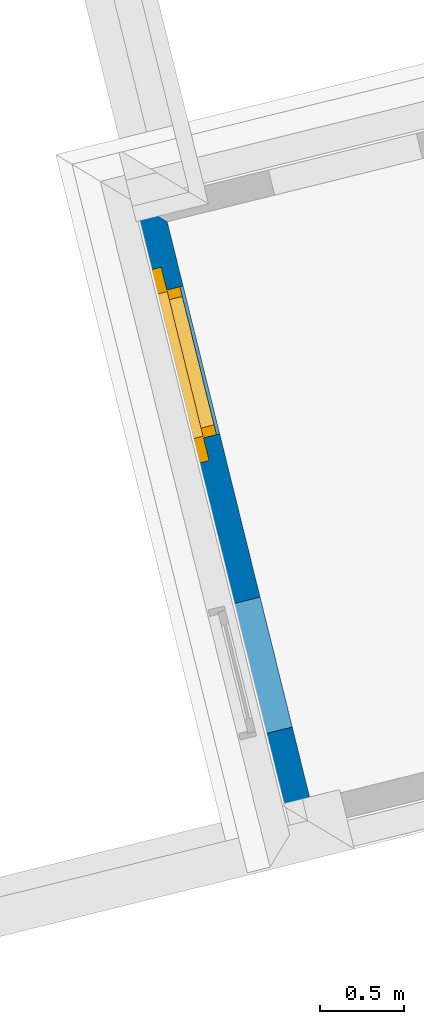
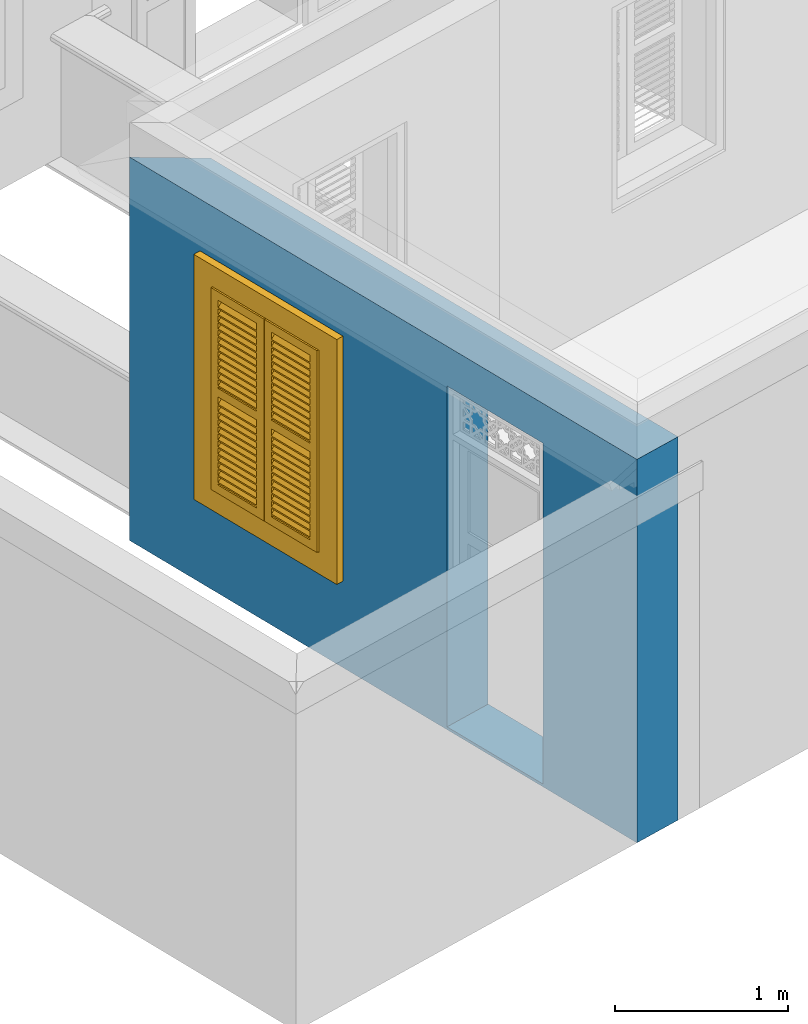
# One storey, part 2 of 15: 1 wall, 1 window, 2 openings.
"""IFC4 building model written with IfcOpenShell, lengths in metres."""

from ifc_helpers import new_model, si_unit, frame, origin, origin_with_axes, place, context, subcontext, project, spatial, polyline, outline, extrude, faceted_brep, source, transform, mapped, material, layer, layer_set, layer_usage, type_object, type_shapes, element, fill, save


model = new_model("IFC4")

# Units and contexts
model_context = context("Model", 3, world=origin_with_axes())
body_context = subcontext(model_context, "Body", "Model", "MODEL_VIEW")
ifc_project = project(units=[si_unit("PLANEANGLEUNIT", "RADIAN"), si_unit("MASSUNIT", "GRAM", prefix="KILO"), si_unit("FORCEUNIT", "NEWTON", prefix="KILO"), si_unit("LENGTHUNIT", "METRE"), si_unit("AREAUNIT", "SQUARE_METRE"), si_unit("VOLUMEUNIT", "CUBIC_METRE")], contexts=[model_context, model_context])

# Site, building, storey
site_placement = place(None, origin_with_axes())
site = spatial("IfcSite", under=ifc_project, at=site_placement, Name="Site plot-5", CompositionType="ELEMENT")
building_placement = place(None, origin_with_axes())
building = spatial("IfcBuilding", under=site, at=building_placement, Name="Building plot-5", CompositionType="ELEMENT")
storey_placement = place(None, frame((0.0, 0.0, 3.45), z_axis=(0.0, 0.0, 1.0), x_axis=(1.0, 0.0, 0.0)))
storey = spatial("IfcBuildingStorey", under=building, at=storey_placement, Name="plot-5 1", CompositionType="ELEMENT", Elevation=3.45)

# Wall, openings, window
ifc_material = material(Name="Masonry")
ifc_layer = layer(ifc_material, 0.33, ventilated=False)
ifc_layer_set = layer_set([ifc_layer], Name="exterior_0.08_0.25")
ifc_layer_usage = layer_usage(ifc_layer_set, "AXIS2", "POSITIVE", -0.25)
wall_type = type_object("IfcWallType", Name="exterior_0.08_0.25", PredefinedType="SOLIDWALL", material=ifc_layer_set)
wall_placement = place(storey_placement, frame((18.993952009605, 23.9854149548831, 0.0), z_axis=(0.0, 0.0, 1.0), x_axis=(0.24025012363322, -0.970711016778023, 0.0)))
wall = element("IfcWall", 1, at=wall_placement, inside=storey, type_object=wall_type, material=ifc_layer_usage, Name="exterior", context=body_context, shape_type="SweptSolid", body=[
    extrude(outline(polyline([(0.0799999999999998, 0.0800000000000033), (-0.250000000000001, -0.25), (3.96959470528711, -0.250000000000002), (3.96959470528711, 0.0799999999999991), (0.0799999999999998, 0.0800000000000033)])), origin_with_axes(), (0.0, 0.0, 1.0), 2.7),
])
opening_1_placement = place(wall_placement, frame((0.474898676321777, 0.0, 0.75)))
opening_1 = element("IfcOpeningElement", 2, at=opening_1_placement, cuts=wall, Name="My Opening", ObjectType="Opening", context=body_context, shape_type="SweptSolid", body=[
    extrude(outline(polyline([(0.0, -0.27), (0.910000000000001, -0.269999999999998), (0.910000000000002, 1.1), (2.77555756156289e-16, 1.1), (0.0, -0.27)])), origin_with_axes(), (0.0, 0.0, 1.0), 1.445),
])
opening_2_placement = place(wall_placement, frame((2.38969602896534, 0.0, 0.02)))
element("IfcOpeningElement", 3, at=opening_2_placement, cuts=wall, Name="My Opening", ObjectType="Opening", context=body_context, shape_type="SweptSolid", body=[
    extrude(outline(polyline([(0.0, -0.269999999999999), (0.799999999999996, -0.269999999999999), (0.799999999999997, 1.1), (0.0, 1.1), (0.0, -0.269999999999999)])), origin_with_axes(), (0.0, 0.0, 1.0), 2.4),
])
window_type = type_object("IfcWindowType", Name="shuttered_shorter", PartitioningType="DOUBLE_PANEL_HORIZONTAL", PredefinedType="NOTDEFINED")
shared_shape = source(origin(), body_context, "Body", "Brep", [
    faceted_brep([(0.393, 0.0, 0.622), (0.074, 0.0, 0.622), (0.074, 0.0, 0.632), (0.393, 0.0, 0.632), (0.074, -0.04, 0.592), (0.393, -0.04, 0.592), (0.393, -0.04, 0.582), (0.074, -0.04, 0.582), (0.517, 0.0, 0.682), (0.836, 0.0, 0.682), (0.836, 0.0, 0.672), (0.517, 0.0, 0.672), (0.517, -0.04, 0.642), (0.836, -0.04, 0.642), (0.836, -0.04, 0.632), (0.517, -0.04, 0.632), (0.517, 0.0, 0.632), (0.836, 0.0, 0.632), (0.836, 0.0, 0.622), (0.517, 0.0, 0.622), (0.517, -0.04, 0.592), (0.836, -0.04, 0.592), (0.836, -0.04, 0.582), (0.517, -0.04, 0.582), (0.517, 0.0, 0.232), (0.836, 0.0, 0.232), (0.836, 0.0, 0.222), (0.517, 0.0, 0.222), (0.517, -0.04, 0.192), (0.836, -0.04, 0.192), (0.836, -0.04, 0.182), (0.517, -0.04, 0.182), (0.517, 0.0, 0.532), (0.836, 0.0, 0.532), (0.836, 0.0, 0.522), (0.517, 0.0, 0.522), (0.517, -0.04, 0.492), (0.836, -0.04, 0.492), (0.836, -0.04, 0.482), (0.517, -0.04, 0.482), (0.517, 0.0, 0.482), (0.836, 0.0, 0.482), (0.836, 0.0, 0.472), (0.517, 0.0, 0.472), (0.517, -0.04, 0.442), (0.836, -0.04, 0.442), (0.836, -0.04, 0.432), (0.517, -0.04, 0.432), (0.517, 0.0, 0.582), (0.836, 0.0, 0.582), (0.836, 0.0, 0.572), (0.517, 0.0, 0.572), (0.517, -0.04, 0.542), (0.836, -0.04, 0.542), (0.836, -0.04, 0.532), (0.517, -0.04, 0.532), (0.517, 0.0, 0.182), (0.836, 0.0, 0.182), (0.836, 0.0, 0.172), (0.517, 0.0, 0.172), (0.517, -0.04, 0.142), (0.836, -0.04, 0.142), (0.836, -0.04, 0.132), (0.517, -0.04, 0.132), (0.517, 0.0, 0.382), (0.836, 0.0, 0.382), (0.836, 0.0, 0.372), (0.517, 0.0, 0.372), (0.517, -0.04, 0.342), (0.836, -0.04, 0.342), (0.836, -0.04, 0.332), (0.517, -0.04, 0.332), (0.517, 0.0, 0.432), (0.836, 0.0, 0.432), (0.836, 0.0, 0.422), (0.517, 0.0, 0.422), (0.517, -0.04, 0.392), (0.836, -0.04, 0.392), (0.836, -0.04, 0.382), (0.517, -0.04, 0.382), (0.517, 0.0, 0.132), (0.836, 0.0, 0.132), (0.836, 0.0, 0.122), (0.517, 0.0, 0.122), (0.517, -0.04, 0.092), (0.836, -0.04, 0.092), (0.836, -0.04, 0.082), (0.517, -0.04, 0.082), (0.517, 0.0, 0.282), (0.836, 0.0, 0.282), (0.836, 0.0, 0.272), (0.517, 0.0, 0.272), (0.517, -0.04, 0.242), (0.836, -0.04, 0.242), (0.836, -0.04, 0.232), (0.517, -0.04, 0.232), (0.517, 0.0, 0.332), (0.836, 0.0, 0.332), (0.836, 0.0, 0.322), (0.517, 0.0, 0.322), (0.517, -0.04, 0.292), (0.836, -0.04, 0.292), (0.836, -0.04, 0.282), (0.517, -0.04, 0.282), (0.517, 0.0, 1.362667), (0.836, 0.0, 1.362667), (0.836, 0.0, 1.352667), (0.517, 0.0, 1.352667), (0.517, -0.04, 1.322667), (0.836, -0.04, 1.322667), (0.836, -0.04, 1.312667), (0.517, -0.04, 1.312667), (0.517, 0.0, 1.312667), (0.836, 0.0, 1.312667), (0.836, 0.0, 1.302667), (0.517, 0.0, 1.302667), (0.517, -0.04, 1.272667), (0.836, -0.04, 1.272667), (0.836, -0.04, 1.262667), (0.517, -0.04, 1.262667), (0.517, 0.0, 0.912667), (0.836, 0.0, 0.912667), (0.836, 0.0, 0.902667), (0.517, 0.0, 0.902667), (0.517, -0.04, 0.872667), (0.836, -0.04, 0.872667), (0.836, -0.04, 0.862667), (0.517, -0.04, 0.862667), (0.517, 0.0, 1.212667), (0.836, 0.0, 1.212667), (0.836, 0.0, 1.202667), (0.517, 0.0, 1.202667), (0.517, -0.04, 1.172667), (0.836, -0.04, 1.172667), (0.836, -0.04, 1.162667), (0.517, -0.04, 1.162667), (0.517, 0.0, 1.162667), (0.836, 0.0, 1.162667), (0.836, 0.0, 1.152667), (0.517, 0.0, 1.152667), (0.517, -0.04, 1.122667), (0.836, -0.04, 1.122667), (0.836, -0.04, 1.112667), (0.517, -0.04, 1.112667), (0.517, 0.0, 1.262667), (0.836, 0.0, 1.262667), (0.836, 0.0, 1.252667), (0.517, 0.0, 1.252667), (0.517, -0.04, 1.222667), (0.836, -0.04, 1.222667), (0.836, -0.04, 1.212667), (0.517, -0.04, 1.212667), (0.517, 0.0, 0.862667), (0.836, 0.0, 0.862667), (0.836, 0.0, 0.852667), (0.517, 0.0, 0.852667), (0.517, -0.04, 0.822667), (0.836, -0.04, 0.822667), (0.836, -0.04, 0.812667), (0.517, -0.04, 0.812667), (0.517, 0.0, 1.062667), (0.836, 0.0, 1.062667), (0.836, 0.0, 1.052667), (0.517, 0.0, 1.052667), (0.517, -0.04, 1.022667), (0.836, -0.04, 1.022667), (0.836, -0.04, 1.012667), (0.517, -0.04, 1.012667), (0.517, 0.0, 1.112667), (0.836, 0.0, 1.112667), (0.836, 0.0, 1.102667), (0.517, 0.0, 1.102667), (0.517, -0.04, 1.072667), (0.836, -0.04, 1.072667), (0.836, -0.04, 1.062667), (0.517, -0.04, 1.062667), (0.517, 0.0, 0.812667), (0.836, 0.0, 0.812667), (0.836, 0.0, 0.802667), (0.517, 0.0, 0.802667), (0.517, -0.04, 0.772667), (0.836, -0.04, 0.772667), (0.836, -0.04, 0.762667), (0.517, -0.04, 0.762667), (0.517, 0.0, 0.962667), (0.836, 0.0, 0.962667), (0.836, 0.0, 0.952667), (0.517, 0.0, 0.952667), (0.517, -0.04, 0.922667), (0.836, -0.04, 0.922667), (0.836, -0.04, 0.912667), (0.517, -0.04, 0.912667), (0.517, 0.0, 1.012667), (0.836, 0.0, 1.012667), (0.836, 0.0, 1.002667), (0.517, 0.0, 1.002667), (0.517, -0.04, 0.972667), (0.836, -0.04, 0.972667), (0.836, -0.04, 0.962667), (0.517, -0.04, 0.962667), (0.074, 0.0, 0.682), (0.393, 0.0, 0.682), (0.393, 0.0, 0.672), (0.074, 0.0, 0.672), (0.074, -0.04, 0.642), (0.393, -0.04, 0.642), (0.393, -0.04, 0.632), (0.074, -0.04, 0.632), (0.074, 0.0, 0.232), (0.393, 0.0, 0.232), (0.393, 0.0, 0.222), (0.074, 0.0, 0.222), (0.074, -0.04, 0.192), (0.393, -0.04, 0.192), (0.393, -0.04, 0.182), (0.074, -0.04, 0.182), (0.074, 0.0, 0.532), (0.393, 0.0, 0.532), (0.393, 0.0, 0.522), (0.074, 0.0, 0.522), (0.074, -0.04, 0.492), (0.393, -0.04, 0.492), (0.393, -0.04, 0.482), (0.074, -0.04, 0.482), (0.074, 0.0, 0.482), (0.393, 0.0, 0.482), (0.393, 0.0, 0.472), (0.074, 0.0, 0.472), (0.074, -0.04, 0.442), (0.393, -0.04, 0.442), (0.393, -0.04, 0.432), (0.074, -0.04, 0.432), (0.074, 0.0, 0.582), (0.393, 0.0, 0.582), (0.393, 0.0, 0.572), (0.074, 0.0, 0.572), (0.074, -0.04, 0.542), (0.393, -0.04, 0.542), (0.393, -0.04, 0.532), (0.074, -0.04, 0.532), (0.074, 0.0, 0.182), (0.393, 0.0, 0.182), (0.393, 0.0, 0.172), (0.074, 0.0, 0.172), (0.074, -0.04, 0.142), (0.393, -0.04, 0.142), (0.393, -0.04, 0.132), (0.074, -0.04, 0.132), (0.074, 0.0, 0.382), (0.393, 0.0, 0.382), (0.393, 0.0, 0.372), (0.074, 0.0, 0.372), (0.074, -0.04, 0.342), (0.393, -0.04, 0.342), (0.393, -0.04, 0.332), (0.074, -0.04, 0.332), (0.074, 0.0, 0.432), (0.393, 0.0, 0.432), (0.393, 0.0, 0.422), (0.074, 0.0, 0.422), (0.074, -0.04, 0.392), (0.393, -0.04, 0.392), (0.393, -0.04, 0.382), (0.074, -0.04, 0.382), (0.074, 0.0, 0.132), (0.393, 0.0, 0.132), (0.393, 0.0, 0.122), (0.074, 0.0, 0.122), (0.074, -0.04, 0.092), (0.393, -0.04, 0.092), (0.393, -0.04, 0.082), (0.074, -0.04, 0.082), (0.074, 0.0, 0.282), (0.393, 0.0, 0.282), (0.393, 0.0, 0.272), (0.074, 0.0, 0.272), (0.074, -0.04, 0.242), (0.393, -0.04, 0.242), (0.393, -0.04, 0.232), (0.074, -0.04, 0.232), (0.074, 0.0, 0.332), (0.393, 0.0, 0.332), (0.393, 0.0, 0.322), (0.074, 0.0, 0.322), (0.074, -0.04, 0.292), (0.393, -0.04, 0.292), (0.393, -0.04, 0.282), (0.074, -0.04, 0.282), (0.074, 0.0, 1.362667), (0.393, 0.0, 1.362667), (0.393, 0.0, 1.352667), (0.074, 0.0, 1.352667), (0.074, -0.04, 1.322667), (0.393, -0.04, 1.322667), (0.393, -0.04, 1.312667), (0.074, -0.04, 1.312667), (0.074, 0.0, 1.312667), (0.393, 0.0, 1.312667), (0.393, 0.0, 1.302667), (0.074, 0.0, 1.302667), (0.074, -0.04, 1.272667), (0.393, -0.04, 1.272667), (0.393, -0.04, 1.262667), (0.074, -0.04, 1.262667), (0.074, 0.0, 0.912667), (0.393, 0.0, 0.912667), (0.393, 0.0, 0.902667), (0.074, 0.0, 0.902667), (0.074, -0.04, 0.872667), (0.393, -0.04, 0.872667), (0.393, -0.04, 0.862667), (0.074, -0.04, 0.862667), (0.074, 0.0, 1.212667), (0.393, 0.0, 1.212667), (0.393, 0.0, 1.202667), (0.074, 0.0, 1.202667), (0.074, -0.04, 1.172667), (0.393, -0.04, 1.172667), (0.393, -0.04, 1.162667), (0.074, -0.04, 1.162667), (0.074, 0.0, 1.162667), (0.393, 0.0, 1.162667), (0.393, 0.0, 1.152667), (0.074, 0.0, 1.152667), (0.074, -0.04, 1.122667), (0.393, -0.04, 1.122667), (0.393, -0.04, 1.112667), (0.074, -0.04, 1.112667), (0.074, 0.0, 1.262667), (0.393, 0.0, 1.262667), (0.393, 0.0, 1.252667), (0.074, 0.0, 1.252667), (0.074, -0.04, 1.222667), (0.393, -0.04, 1.222667), (0.393, -0.04, 1.212667), (0.074, -0.04, 1.212667), (0.074, 0.0, 0.862667), (0.393, 0.0, 0.862667), (0.393, 0.0, 0.852667), (0.074, 0.0, 0.852667), (0.074, -0.04, 0.822667), (0.393, -0.04, 0.822667), (0.393, -0.04, 0.812667), (0.074, -0.04, 0.812667), (0.074, 0.0, 1.062667), (0.393, 0.0, 1.062667), (0.393, 0.0, 1.052667), (0.074, 0.0, 1.052667), (0.074, -0.04, 1.022667), (0.393, -0.04, 1.022667), (0.393, -0.04, 1.012667), (0.074, -0.04, 1.012667), (0.074, 0.0, 1.112667), (0.393, 0.0, 1.112667), (0.393, 0.0, 1.102667), (0.074, 0.0, 1.102667), (0.074, -0.04, 1.072667), (0.393, -0.04, 1.072667), (0.393, -0.04, 1.062667), (0.074, -0.04, 1.062667), (0.074, 0.0, 0.812667), (0.393, 0.0, 0.812667), (0.393, 0.0, 0.802667), (0.074, 0.0, 0.802667), (0.074, -0.04, 0.772667), (0.393, -0.04, 0.772667), (0.393, -0.04, 0.762667), (0.074, -0.04, 0.762667), (0.074, 0.0, 0.962667), (0.393, 0.0, 0.962667), (0.393, 0.0, 0.952667), (0.074, 0.0, 0.952667), (0.074, -0.04, 0.922667), (0.393, -0.04, 0.922667), (0.393, -0.04, 0.912667), (0.074, -0.04, 0.912667), (0.074, 0.0, 1.012667), (0.393, 0.0, 1.012667), (0.393, 0.0, 1.002667), (0.074, 0.0, 1.002667), (0.074, -0.04, 0.972667), (0.393, -0.04, 0.972667), (0.393, -0.04, 0.962667), (0.074, -0.04, 0.962667), (0.517, -0.04, 0.072), (0.457, -0.04, 0.012), (0.896, -0.04, 0.012), (0.836, -0.04, 0.072), (0.457, -0.04, 0.692667), (0.517, -0.04, 0.692667), (0.457, 0.0, 0.012), (0.896, 0.0, 0.012), (0.836, -0.04, 0.692667), (0.896, -0.04, 0.692667), (0.836, 0.0, 0.072), (0.517, 0.0, 0.072), (0.457, 0.0, 0.692667), (0.517, 0.0, 0.692667), (0.517, -0.04, 0.752666), (0.457, -0.04, 0.752666), (0.896, 0.0, 0.692667), (0.836, 0.0, 0.692667), (0.836, -0.04, 0.752666), (0.896, -0.04, 0.752666), (0.457, 0.0, 0.752666), (0.457, -0.04, 1.433333), (0.517, -0.04, 1.373333), (0.896, 0.0, 0.752666), (0.836, -0.04, 1.373333), (0.896, -0.04, 1.433333), (0.457, 0.0, 1.433333), (0.517, 0.0, 0.752666), (0.836, 0.0, 0.752666), (0.517, 0.0, 1.373333), (0.896, 0.0, 1.433333), (0.836, 0.0, 1.373333), (0.074, -0.04, 0.072), (0.014, -0.04, 0.012), (0.453, -0.04, 0.012), (0.393, -0.04, 0.072), (0.014, -0.04, 0.692667), (0.074, -0.04, 0.692667), (0.014, 0.0, 0.012), (0.453, 0.0, 0.012), (0.393, -0.04, 0.692667), (0.453, -0.04, 0.692667), (0.393, 0.0, 0.072), (0.074, 0.0, 0.072), (0.014, 0.0, 0.692667), (0.074, 0.0, 0.692667), (0.074, -0.04, 0.752666), (0.014, -0.04, 0.752666), (0.453, 0.0, 0.692667), (0.393, 0.0, 0.692667), (0.393, -0.04, 0.752666), (0.453, -0.04, 0.752666), (0.014, 0.0, 0.752666), (0.014, -0.04, 1.433333), (0.074, -0.04, 1.373333), (0.453, 0.0, 0.752666), (0.393, -0.04, 1.373333), (0.453, -0.04, 1.433333), (0.014, 0.0, 1.433333), (0.074, 0.0, 0.752666), (0.393, 0.0, 0.752666), (0.074, 0.0, 1.373333), (0.453, 0.0, 1.433333), (0.393, 0.0, 1.373333), (0.0, 0.33, 1.445), (0.91, 0.33, 1.445), (0.85, 0.33, 1.385), (0.06, 0.33, 1.385), (0.91, 0.25, 1.445), (0.0, 0.25, 1.445), (0.91, 0.25, 1.445), (0.85, 0.33, 0.06), (0.91, 0.33, 0.0), (0.85, 0.25, 1.385), (0.06, 0.25, 1.385), (0.0, 0.33, 0.0), (0.06, 0.33, 0.06), (0.0, 0.25, 0.0), (0.91, 0.25, 0.0), (0.85, 0.25, 0.06), (0.06, 0.25, 0.06), (1.05, 0.25, 1.585), (-0.14, 0.25, 1.585), (-0.14, -0.03, 1.585), (1.05, -0.03, 1.585), (0.9, -0.03, 1.435), (0.01, -0.03, 1.435), (0.01, 0.25, 1.435), (0.9, 0.25, 1.435), (0.9, 0.25, 0.01), (0.9, -0.03, 0.01), (1.05, -0.03, -0.14), (1.05, 0.25, -0.14), (0.01, -0.03, 0.01), (0.01, 0.25, 0.01), (-0.14, -0.03, -0.14), (-0.14, 0.25, -0.14)], [[[0, 1, 2, 3]], [[4, 5, 3, 2]], [[5, 6, 0, 3]], [[1, 0, 6, 7]], [[2, 1, 7, 4]], [[5, 4, 7, 6]], [[8, 9, 10, 11]], [[12, 13, 9, 8]], [[13, 14, 10, 9]], [[14, 15, 11, 10]], [[15, 12, 8, 11]], [[13, 12, 15, 14]], [[16, 17, 18, 19]], [[20, 21, 17, 16]], [[21, 22, 18, 17]], [[22, 23, 19, 18]], [[23, 20, 16, 19]], [[21, 20, 23, 22]], [[24, 25, 26, 27]], [[28, 29, 25, 24]], [[29, 30, 26, 25]], [[30, 31, 27, 26]], [[31, 28, 24, 27]], [[29, 28, 31, 30]], [[32, 33, 34, 35]], [[36, 37, 33, 32]], [[37, 38, 34, 33]], [[38, 39, 35, 34]], [[39, 36, 32, 35]], [[37, 36, 39, 38]], [[40, 41, 42, 43]], [[44, 45, 41, 40]], [[45, 46, 42, 41]], [[46, 47, 43, 42]], [[47, 44, 40, 43]], [[45, 44, 47, 46]], [[48, 49, 50, 51]], [[52, 53, 49, 48]], [[53, 54, 50, 49]], [[54, 55, 51, 50]], [[55, 52, 48, 51]], [[53, 52, 55, 54]], [[56, 57, 58, 59]], [[60, 61, 57, 56]], [[61, 62, 58, 57]], [[62, 63, 59, 58]], [[63, 60, 56, 59]], [[61, 60, 63, 62]], [[64, 65, 66, 67]], [[68, 69, 65, 64]], [[69, 70, 66, 65]], [[70, 71, 67, 66]], [[71, 68, 64, 67]], [[69, 68, 71, 70]], [[72, 73, 74, 75]], [[76, 77, 73, 72]], [[77, 78, 74, 73]], [[78, 79, 75, 74]], [[79, 76, 72, 75]], [[77, 76, 79, 78]], [[80, 81, 82, 83]], [[84, 85, 81, 80]], [[85, 86, 82, 81]], [[86, 87, 83, 82]], [[87, 84, 80, 83]], [[85, 84, 87, 86]], [[88, 89, 90, 91]], [[92, 93, 89, 88]], [[93, 94, 90, 89]], [[94, 95, 91, 90]], [[95, 92, 88, 91]], [[93, 92, 95, 94]], [[96, 97, 98, 99]], [[100, 101, 97, 96]], [[101, 102, 98, 97]], [[102, 103, 99, 98]], [[103, 100, 96, 99]], [[101, 100, 103, 102]], [[104, 105, 106, 107]], [[108, 109, 105, 104]], [[109, 110, 106, 105]], [[110, 111, 107, 106]], [[111, 108, 104, 107]], [[109, 108, 111, 110]], [[112, 113, 114, 115]], [[116, 117, 113, 112]], [[117, 118, 114, 113]], [[118, 119, 115, 114]], [[119, 116, 112, 115]], [[117, 116, 119, 118]], [[120, 121, 122, 123]], [[124, 125, 121, 120]], [[125, 126, 122, 121]], [[126, 127, 123, 122]], [[127, 124, 120, 123]], [[125, 124, 127, 126]], [[128, 129, 130, 131]], [[132, 133, 129, 128]], [[133, 134, 130, 129]], [[134, 135, 131, 130]], [[135, 132, 128, 131]], [[133, 132, 135, 134]], [[136, 137, 138, 139]], [[140, 141, 137, 136]], [[141, 142, 138, 137]], [[142, 143, 139, 138]], [[139, 143, 140, 136]], [[141, 140, 143, 142]], [[144, 145, 146, 147]], [[148, 149, 145, 144]], [[149, 150, 146, 145]], [[150, 151, 147, 146]], [[151, 148, 144, 147]], [[149, 148, 151, 150]], [[152, 153, 154, 155]], [[156, 157, 153, 152]], [[157, 158, 154, 153]], [[158, 159, 155, 154]], [[159, 156, 152, 155]], [[157, 156, 159, 158]], [[160, 161, 162, 163]], [[164, 165, 161, 160]], [[165, 166, 162, 161]], [[166, 167, 163, 162]], [[167, 164, 160, 163]], [[165, 164, 167, 166]], [[168, 169, 170, 171]], [[172, 173, 169, 168]], [[173, 174, 170, 169]], [[174, 175, 171, 170]], [[175, 172, 168, 171]], [[173, 172, 175, 174]], [[176, 177, 178, 179]], [[180, 181, 177, 176]], [[181, 182, 178, 177]], [[182, 183, 179, 178]], [[183, 180, 176, 179]], [[181, 180, 183, 182]], [[184, 185, 186, 187]], [[188, 189, 185, 184]], [[189, 190, 186, 185]], [[190, 191, 187, 186]], [[191, 188, 184, 187]], [[189, 188, 191, 190]], [[192, 193, 194, 195]], [[196, 197, 193, 192]], [[197, 198, 194, 193]], [[198, 199, 195, 194]], [[199, 196, 192, 195]], [[197, 196, 199, 198]], [[200, 201, 202, 203]], [[204, 205, 201, 200]], [[205, 206, 202, 201]], [[206, 207, 203, 202]], [[207, 204, 200, 203]], [[205, 204, 207, 206]], [[208, 209, 210, 211]], [[212, 213, 209, 208]], [[213, 214, 210, 209]], [[214, 215, 211, 210]], [[215, 212, 208, 211]], [[213, 212, 215, 214]], [[216, 217, 218, 219]], [[220, 221, 217, 216]], [[221, 222, 218, 217]], [[222, 223, 219, 218]], [[223, 220, 216, 219]], [[221, 220, 223, 222]], [[224, 225, 226, 227]], [[228, 229, 225, 224]], [[229, 230, 226, 225]], [[230, 231, 227, 226]], [[231, 228, 224, 227]], [[229, 228, 231, 230]], [[232, 233, 234, 235]], [[236, 237, 233, 232]], [[237, 238, 234, 233]], [[238, 239, 235, 234]], [[239, 236, 232, 235]], [[237, 236, 239, 238]], [[240, 241, 242, 243]], [[244, 245, 241, 240]], [[245, 246, 242, 241]], [[246, 247, 243, 242]], [[247, 244, 240, 243]], [[245, 244, 247, 246]], [[248, 249, 250, 251]], [[252, 253, 249, 248]], [[253, 254, 250, 249]], [[254, 255, 251, 250]], [[255, 252, 248, 251]], [[253, 252, 255, 254]], [[256, 257, 258, 259]], [[260, 261, 257, 256]], [[261, 262, 258, 257]], [[262, 263, 259, 258]], [[263, 260, 256, 259]], [[261, 260, 263, 262]], [[264, 265, 266, 267]], [[268, 269, 265, 264]], [[269, 270, 266, 265]], [[270, 271, 267, 266]], [[271, 268, 264, 267]], [[269, 268, 271, 270]], [[272, 273, 274, 275]], [[276, 277, 273, 272]], [[277, 278, 274, 273]], [[278, 279, 275, 274]], [[279, 276, 272, 275]], [[277, 276, 279, 278]], [[280, 281, 282, 283]], [[284, 285, 281, 280]], [[285, 286, 282, 281]], [[286, 287, 283, 282]], [[287, 284, 280, 283]], [[285, 284, 287, 286]], [[288, 289, 290, 291]], [[292, 293, 289, 288]], [[293, 294, 290, 289]], [[294, 295, 291, 290]], [[295, 292, 288, 291]], [[293, 292, 295, 294]], [[296, 297, 298, 299]], [[300, 301, 297, 296]], [[301, 302, 298, 297]], [[302, 303, 299, 298]], [[303, 300, 296, 299]], [[301, 300, 303, 302]], [[304, 305, 306, 307]], [[308, 309, 305, 304]], [[309, 310, 306, 305]], [[310, 311, 307, 306]], [[311, 308, 304, 307]], [[309, 308, 311, 310]], [[312, 313, 314, 315]], [[316, 317, 313, 312]], [[317, 318, 314, 313]], [[318, 319, 315, 314]], [[319, 316, 312, 315]], [[317, 316, 319, 318]], [[320, 321, 322, 323]], [[324, 325, 321, 320]], [[325, 326, 322, 321]], [[326, 327, 323, 322]], [[327, 324, 320, 323]], [[325, 324, 327, 326]], [[328, 329, 330, 331]], [[332, 333, 329, 328]], [[333, 334, 330, 329]], [[334, 335, 331, 330]], [[335, 332, 328, 331]], [[333, 332, 335, 334]], [[336, 337, 338, 339]], [[340, 341, 337, 336]], [[341, 342, 338, 337]], [[342, 343, 339, 338]], [[343, 340, 336, 339]], [[341, 340, 343, 342]], [[344, 345, 346, 347]], [[348, 349, 345, 344]], [[349, 350, 346, 345]], [[350, 351, 347, 346]], [[351, 348, 344, 347]], [[349, 348, 351, 350]], [[352, 353, 354, 355]], [[356, 357, 353, 352]], [[357, 358, 354, 353]], [[358, 359, 355, 354]], [[359, 356, 352, 355]], [[357, 356, 359, 358]], [[360, 361, 362, 363]], [[364, 365, 361, 360]], [[365, 366, 362, 361]], [[366, 367, 363, 362]], [[367, 364, 360, 363]], [[365, 364, 367, 366]], [[368, 369, 370, 371]], [[372, 373, 369, 368]], [[373, 374, 370, 369]], [[374, 375, 371, 370]], [[375, 372, 368, 371]], [[373, 372, 375, 374]], [[376, 377, 378, 379]], [[380, 381, 377, 376]], [[381, 382, 378, 377]], [[382, 383, 379, 378]], [[383, 380, 376, 379]], [[381, 380, 383, 382]], [[384, 385, 386, 387]], [[388, 385, 384, 389]], [[390, 391, 386, 385]], [[392, 387, 386, 393]], [[384, 387, 394, 395]], [[390, 385, 388, 396]], [[389, 384, 395, 397]], [[389, 398, 399, 388]], [[390, 395, 394, 391]], [[400, 393, 386, 391]], [[387, 392, 401, 394]], [[402, 392, 393, 403]], [[396, 388, 399, 404]], [[390, 396, 397, 395]], [[392, 389, 397, 401]], [[398, 389, 392, 402]], [[405, 399, 398, 406]], [[394, 401, 400, 391]], [[407, 403, 393, 400]], [[408, 402, 403, 409]], [[404, 399, 405, 410]], [[411, 397, 396, 404]], [[397, 411, 412, 401]], [[398, 402, 412, 411]], [[406, 398, 411, 413]], [[405, 406, 408, 409]], [[401, 412, 407, 400]], [[414, 409, 403, 407]], [[402, 408, 415, 412]], [[405, 409, 414, 410]], [[404, 410, 413, 411]], [[408, 406, 413, 415]], [[412, 415, 414, 407]], [[413, 410, 414, 415]], [[416, 417, 418, 419]], [[420, 417, 416, 421]], [[422, 423, 418, 417]], [[424, 419, 418, 425]], [[416, 419, 426, 427]], [[422, 417, 420, 428]], [[421, 416, 427, 429]], [[421, 430, 431, 420]], [[422, 427, 426, 423]], [[432, 425, 418, 423]], [[419, 424, 433, 426]], [[434, 424, 425, 435]], [[428, 420, 431, 436]], [[422, 428, 429, 427]], [[424, 421, 429, 433]], [[430, 421, 424, 434]], [[437, 431, 430, 438]], [[426, 433, 432, 423]], [[439, 435, 425, 432]], [[440, 434, 435, 441]], [[436, 431, 437, 442]], [[443, 429, 428, 436]], [[429, 443, 444, 433]], [[430, 434, 444, 443]], [[438, 430, 443, 445]], [[437, 438, 440, 441]], [[433, 444, 439, 432]], [[446, 441, 435, 439]], [[434, 440, 447, 444]], [[437, 441, 446, 442]], [[436, 442, 445, 443]], [[440, 438, 445, 447]], [[444, 447, 446, 439]], [[445, 442, 446, 447]], [[448, 449, 450, 451]], [[452, 449, 448]], [[448, 453, 454]], [[448, 454, 452]], [[455, 450, 449, 456]], [[451, 450, 457, 458]], [[459, 448, 451, 460]], [[448, 459, 461, 453]], [[454, 453, 458, 457]], [[462, 452, 454]], [[454, 457, 463]], [[454, 463, 462]], [[456, 449, 452, 462]], [[450, 455, 463, 457]], [[456, 459, 460, 455]], [[460, 451, 458, 464]], [[459, 456, 462, 461]], [[464, 458, 453, 461]], [[461, 462, 463, 464]], [[455, 460, 464, 463]], [[465, 466, 467, 468]], [[469, 470, 471, 472]], [[473, 474, 469, 472]], [[465, 468, 475, 476]], [[470, 477, 478, 471]], [[474, 473, 478, 477]], [[474, 477, 479, 475]], [[470, 467, 479, 477]], [[470, 469, 468, 467]], [[474, 475, 468, 469]], [[471, 478, 480, 466]], [[473, 472, 465, 476]], [[473, 476, 480, 478]], [[466, 465, 472, 471]], [[480, 476, 475, 479]], [[480, 479, 467, 466]]]),
])
type_shapes(window_type, [shared_shape])
window_placement = place(storey_placement, frame((18.8459545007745, 23.4595580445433, 0.75), z_axis=(0.0, 0.0, 1.0), x_axis=(0.218627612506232, -0.883347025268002, 0.0)))
window = element("IfcWindow", 4, at=window_placement, inside=storey, type_object=window_type, Name="bedroom sahn window", OverallHeight=1.445, OverallWidth=0.91, context=body_context, shape_type="MappedRepresentation", body=[
    mapped(shared_shape, transform((0.0, 0.0, 0.0), scale=1.0)),
])
fill(opening_1, window)

save(model, "model.ifc")
